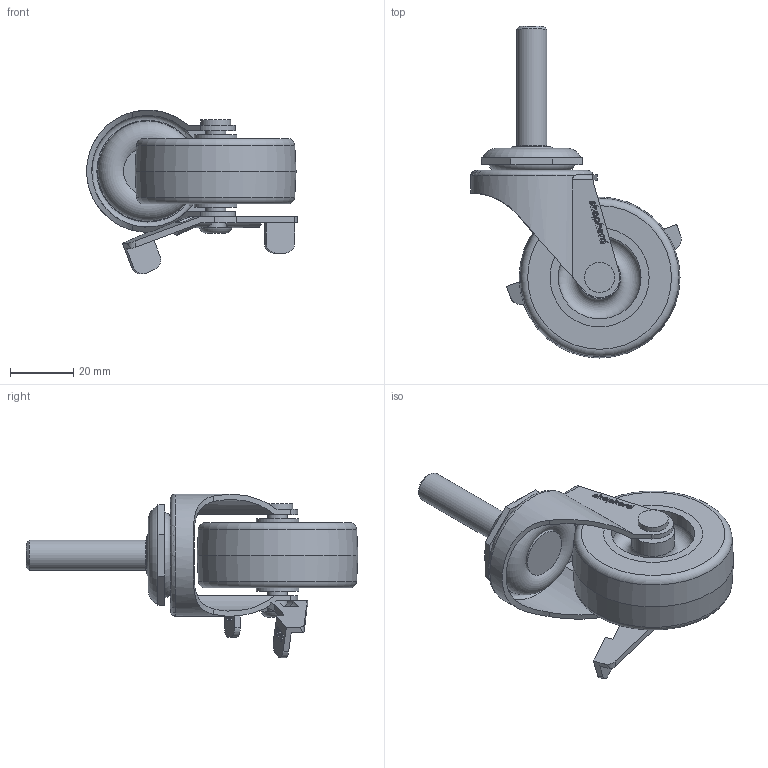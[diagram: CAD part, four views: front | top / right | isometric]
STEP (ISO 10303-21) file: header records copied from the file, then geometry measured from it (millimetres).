
FILE_DESCRIPTION(/* description */ ('STEP AP242','CAx-IF Rec.Pracs.---Representation and Presentation of Product Manufacturing Information (PMI)---4.0---2014-10-13','CAx-IF Rec.Pracs.---3D Tessellated Geometry---0.4---2014-09-14','2;1'),/* implementation_level */ '2;1');
FILE_NAME(/* name */ 'PRE20605ZN-TPRB',/* time_stamp */ '2026-10-01T05:20:29+02:00',/* author */ ('License CC BY-ND 4.0'),/* organization */ ('CADENAS'),/* preprocessor_version */ 'ST-DEVELOPER v20',/* originating_system */ 'PARTsolutions',/* authorisation */ ' ');
FILE_SCHEMA (('AP242_MANAGED_MODEL_BASED_3D_ENGINEERING_MIM_LF { 1 0 10303 442 1 1 4 }'));
Length unit declared in the file: inch
Products named in the file (9): PRE20605ZN-TPRB; 605Regent Series0; PRE-HUR1; PRE20ZN_H; PRE2-B-AXLE; 007962_core; 007962_tread; SB; PRE-W1
Assembly tree (8 placements, depth 2):
  PRE20605ZN-TPRB
    605Regent Series0
    PRE-HUR1
    PRE20ZN_H
    PRE2-B-AXLE
    007962_core
    007962_tread
    SB
    PRE-W1
Bounding box: 66.48 x 104.78 x 51.68 mm (x, y, z)
Volume: 53366.5 mm3; surface area: 33697.9 mm2
Topology: 8 solids, 8 shells, 341 faces, 853 edges, 561 vertices
Faces by surface type: plane 182, cylinder 131, torus 23, cone 5
Full cylindrical faces by diameter (mm): 6.35 x1, 6.731 x3, 7.29 x1, 8.839 x1, 9.144 x1, 9.525 x2, 12.319 x1, 13.462 x2, 15.24 x1, 26.162 x2, 31.242 x4, 31.496 x1, 34.798 x4, 39.878 x2
Entity records: 10199 total; most frequent: CARTESIAN_POINT 1776, DIRECTION 1773, ORIENTED_EDGE 1584, EDGE_CURVE 792, AXIS2_PLACEMENT_3D 643, VERTEX_POINT 554, LINE 487, VECTOR 487
